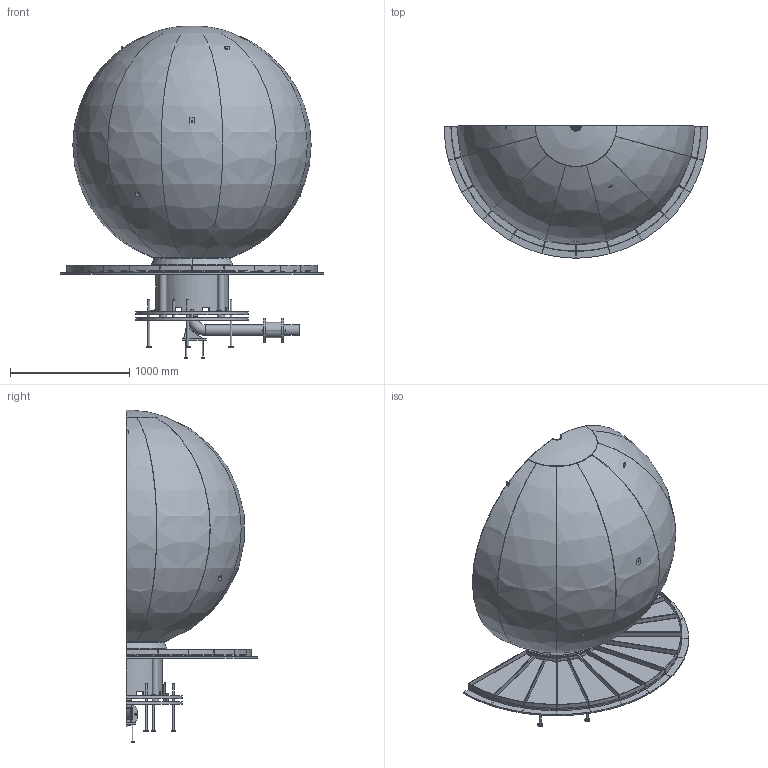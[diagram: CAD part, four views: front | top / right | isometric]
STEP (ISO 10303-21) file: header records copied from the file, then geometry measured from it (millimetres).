
FILE_DESCRIPTION(('Open CASCADE Model'),'2;1');
FILE_NAME('Open CASCADE Shape Model','2026-09-07T11:14:45',('Author'),( 'Open CASCADE'),'Open CASCADE STEP processor 7.9','Open CASCADE 7.9' ,'Unknown');
FILE_SCHEMA(('AUTOMOTIVE_DESIGN { 1 0 10303 214 1 1 1 1 }'));
Length unit declared in the file: millimetre
Products named in the file (79): Open CASCADE STEP translator 7.9 1; Open CASCADE STEP translator 7.9 1.1; Open CASCADE STEP translator 7.9 1.2; Open CASCADE STEP translator 7.9 1.3; Open CASCADE STEP translator 7.9 1.4; Open CASCADE STEP translator 7.9 1.5; Open CASCADE STEP translator 7.9 1.6; Open CASCADE STEP translator 7.9 1.7; Open CASCADE STEP translator 7.9 1.8; Open CASCADE STEP translator 7.9 1.9; Open CASCADE STEP translator 7.9 1.10; Open CASCADE STEP translator 7.9 1.11; Open CASCADE STEP translator 7.9 1.12; Open CASCADE STEP translator 7.9 1.13; Open CASCADE STEP translator 7.9 1.14; Open CASCADE STEP translator 7.9 1.15; Open CASCADE STEP translator 7.9 1.16; Open CASCADE STEP translator 7.9 1.17; Open CASCADE STEP translator 7.9 1.18; Open CASCADE STEP translator 7.9 1.19; Open CASCADE STEP translator 7.9 1.20; Open CASCADE STEP translator 7.9 1.21; Open CASCADE STEP translator 7.9 1.22; Open CASCADE STEP translator 7.9 1.23; Open CASCADE STEP translator 7.9 1.24; Open CASCADE STEP translator 7.9 1.25; Open CASCADE STEP translator 7.9 1.25.1; Open CASCADE STEP translator 7.9 1.25.2; Open CASCADE STEP translator 7.9 1.26; Open CASCADE STEP translator 7.9 1.27; Open CASCADE STEP translator 7.9 1.27.1; Open CASCADE STEP translator 7.9 1.27.2; Open CASCADE STEP translator 7.9 1.27.3; Open CASCADE STEP translator 7.9 1.27.4; Open CASCADE STEP translator 7.9 1.27.5; Open CASCADE STEP translator 7.9 1.27.6; Open CASCADE STEP translator 7.9 1.27.7; Open CASCADE STEP translator 7.9 1.27.8; Open CASCADE STEP translator 7.9 1.27.9; Open CASCADE STEP translator 7.9 1.27.10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
Assembly tree (78 placements, depth 3):
  Open CASCADE STEP translator 7.9 1
    Open CASCADE STEP translator 7.9 1.1
    Open CASCADE STEP translator 7.9 1.2
    Open CASCADE STEP translator 7.9 1.3
    Open CASCADE STEP translator 7.9 1.4
    Open CASCADE STEP translator 7.9 1.5
    Open CASCADE STEP translator 7.9 1.6
    Open CASCADE STEP translator 7.9 1.7
    Open CASCADE STEP translator 7.9 1.8
    Open CASCADE STEP translator 7.9 1.9
    Open CASCADE STEP translator 7.9 1.10
    Open CASCADE STEP translator 7.9 1.11
    Open CASCADE STEP translator 7.9 1.12
    Open CASCADE STEP translator 7.9 1.13
    Open CASCADE STEP translator 7.9 1.14
    Open CASCADE STEP translator 7.9 1.15
    Open CASCADE STEP translator 7.9 1.16
    Open CASCADE STEP translator 7.9 1.17
    Open CASCADE STEP translator 7.9 1.18
    Open CASCADE STEP translator 7.9 1.19
    Open CASCADE STEP translator 7.9 1.20
    Open CASCADE STEP translator 7.9 1.21
    Open CASCADE STEP translator 7.9 1.22
    Open CASCADE STEP translator 7.9 1.23
    Open CASCADE STEP translator 7.9 1.24
    Open CASCADE STEP translator 7.9 1.25
      Open CASCADE STEP translator 7.9 1.25.1
      Open CASCADE STEP translator 7.9 1.25.2
    Open CASCADE STEP translator 7.9 1.26
    Open CASCADE STEP translator 7.9 1.27
      Open CASCADE STEP translator 7.9 1.27.1
      Open CASCADE STEP translator 7.9 1.27.2
      Open CASCADE STEP translator 7.9 1.27.3
      Open CASCADE STEP translator 7.9 1.27.4
      Open CASCADE STEP translator 7.9 1.27.5
      Open CASCADE STEP translator 7.9 1.27.6
      Open CASCADE STEP translator 7.9 1.27.7
      Open CASCADE STEP translator 7.9 1.27.8
      Open CASCADE STEP translator 7.9 1.27.9
      Open CASCADE STEP translator 7.9 1.27.10
      Open CASCADE STEP translator 7.9 1.27.11
      Open CASCADE STEP translator 7.9 1.27.12
      Open CASCADE STEP translator 7.9 1.27.13
      Open CASCADE STEP translator 7.9 1.27.14
      Open CASCADE STEP translator 7.9 1.27.15
      Open CASCADE STEP translator 7.9 1.27.16
      Open CASCADE STEP translator 7.9 1.27.17
      Open CASCADE STEP translator 7.9 1.27.18
      Open CASCADE STEP translator 7.9 1.27.19
    Open CASCADE STEP translator 7.9 1.28
    Open CASCADE STEP translator 7.9 1.29
    Open CASCADE STEP translator 7.9 1.30
    Open CASCADE STEP translator 7.9 1.31
    Open CASCADE STEP translator 7.9 1.32
    Open CASCADE STEP translator 7.9 1.33
    Open CASCADE STEP translator 7.9 1.34
    Open CASCADE STEP translator 7.9 1.35
    Open CASCADE STEP translator 7.9 1.36
    Open CASCADE STEP translator 7.9 1.37
    Open CASCADE STEP translator 7.9 1.38
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Bounding box: 2214 x 1107 x 2786.14 mm (x, y, z)
Volume: 75457742.8 mm3; surface area: 22551652.8 mm2
Topology: 76 solids, 76 shells, 1336 faces, 3266 edges, 2111 vertices
Faces by surface type: plane 1020, cylinder 266, cone 25, sphere 23, torus 2
Full cylindrical faces by diameter (mm): 5 x38, 6.8 x24, 8.4 x2, 10 x3, 11 x2, 12 x4, 16 x8, 17 x3, 17.5 x2, 20 x2, 24 x2, 40 x5, 53.9 x2, 60.3 x2, 75 x2, 80 x2
Entity records: 86104 total; most frequent: CARTESIAN_POINT 18684, DIRECTION 12484, LINE 7860, VECTOR 7860, ORIENTED_EDGE 6580, PCURVE 6532, DEFINITIONAL_REPRESENTATION 6532, EDGE_CURVE 3266
